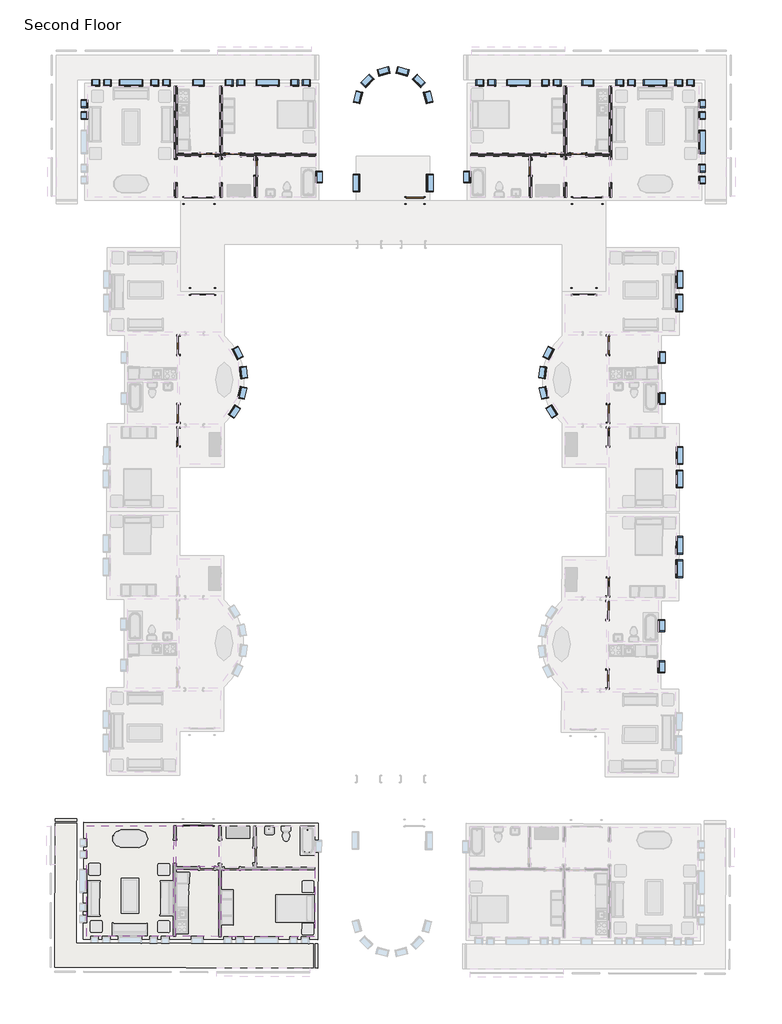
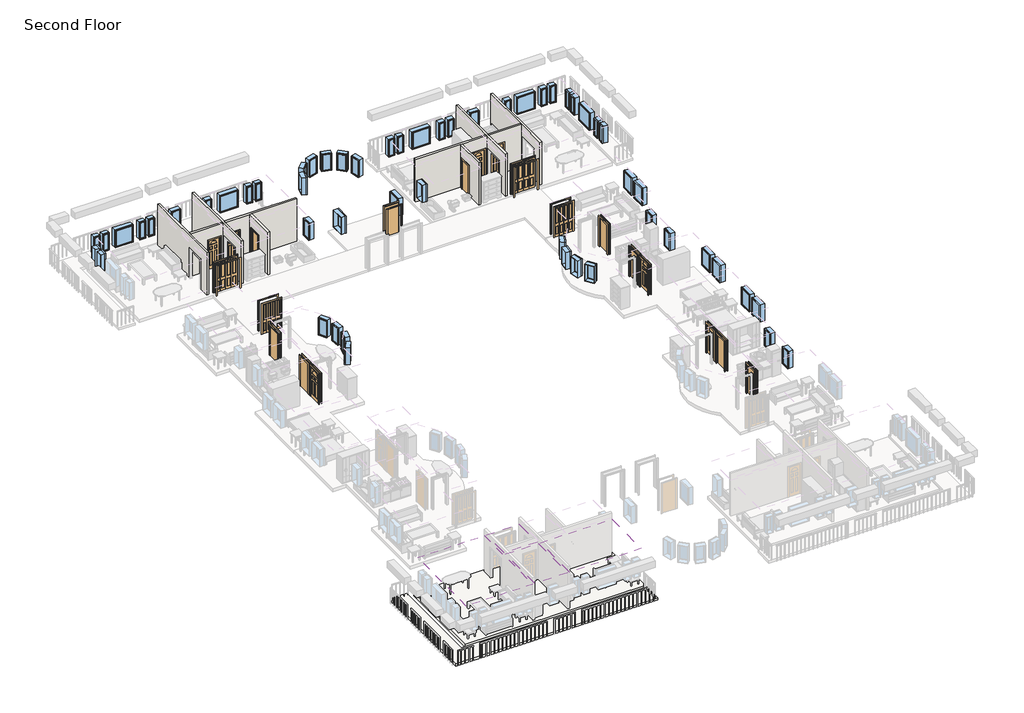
# One storey, part 2 of 8: 57 windows, 20 doors, 8 walls, 4 coverings, 2 slabs.
"""IFC4 building model written with IfcOpenShell, lengths in millimetres."""

from ifc_helpers import new_model, si_unit, frame, origin, place, context, project, spatial, polyline, outline, extrude, faceted_brep, transform, mapped, element, save
from components import m_bifold_4_panel_1220_x_2134mm_46e1cad3, m_bifold_4_panel_1220_x_2134mm_cde6dea2, m_bifold_4_panel_1525_x_2134mm_1ddae71f, m_bifold_4_panel_1525_x_2134mm_ac598c8b, m_single_decorative_2_0762_x_2134mm_0d0af7cb, m_single_decorative_2_0762_x_2134mm_2fe67c8e, m_single_decorative_2_0915_x_2134mm_cc9a65e4, m_single_decorative_2_0915_x_2134mm_0b11df3f, m_single_flush_0762_x_2134mm_0d89e411, m_single_flush_0762_x_2134mm_a28375c7, m_single_flush_0915_x_2134mm_1eac8bb1, m_single_flush_0915_x_2134mm_ab9b6334, m_single_flush_0915_x_2134mm_08e0827a, m_fixed_0406_x_1220mm_57fee329, m_fixed_0406_x_1220mm_85c28f40, m_fixed_0610_x_1220mm_2c28ef1d, m_fixed_0610_x_1220mm_1ea27827, m_fixed_0915_x_1220mm_bde29121, m_fixed_0915_x_1220mm_2a2509e7, m_fixed_1220_x_1220mm_e08ff7af, m_fixed_1220_x_1220mm_8f5f8ad3

model = new_model("IFC4")

# Units and contexts
model_context = context("Model", 3, world=origin())
ifc_project = project(units=[si_unit("LENGTHUNIT", "METRE", prefix="MILLI")], contexts=[model_context])

# Site, building, storey
site = spatial("IfcSite", under=ifc_project)
building = spatial("IfcBuilding", under=site)
storey = spatial("IfcBuildingStorey", under=building, Name="Second Floor", Elevation=3048.0)

# Coverings
placement = place(None, origin())
element("IfcCovering", 1, ObjectType="Plain", at=placement, inside=storey, context=model_context, shape_type="SweptSolid", body=[
    extrude(outline(polyline([(-23042.7754252, -41764.4492391), (-27891.2551095, -41750.4135399), (-27881.1911499, -38273.9281067), (-23032.7114656, -38287.9638059), (-23042.7754252, -41764.4492391)])), frame((0.0, 0.0, 5638.0), z_axis=(0.0, 0.0, 1.0), x_axis=(1.0, 0.0, 0.0)), (0.0, 0.0, 1.0), 57.0),
])
element("IfcCovering", 2, ObjectType="Plain", at=placement, inside=storey, context=model_context, shape_type="SweptSolid", body=[
    extrude(outline(polyline([(-28016.6905821, -38273.535854), (-28026.7545418, -41750.0212871), (-30244.9952471, -41743.5997775), (-30234.9312874, -38267.1143443), (-28016.6905821, -38273.535854)])), frame((0.0, 0.0, 5638.0), z_axis=(0.0, 0.0, 1.0), x_axis=(1.0, 0.0, 0.0)), (0.0, 0.0, 1.0), 57.0),
])
element("IfcCovering", 3, ObjectType="Plain", at=placement, inside=storey, context=model_context, shape_type="SweptSolid", body=[
    extrude(outline(polyline([(-30363.8608487, -35997.2316011), (-30380.4946793, -41743.2075247), (-34884.7258061, -41730.168379), (-34868.0919755, -35984.1924553), (-30363.8608487, -35997.2316011)])), frame((0.0, 0.0, 5638.0), z_axis=(0.0, 0.0, 1.0), x_axis=(1.0, 0.0, 0.0)), (0.0, 0.0, 1.0), 57.0),
])
element("IfcCovering", 4, ObjectType="Plain", at=placement, inside=storey, context=model_context, shape_type="SweptSolid", body=[
    extrude(outline(polyline([(-30228.3614165, -35997.6238538), (-28010.1207112, -36004.0453635), (-28016.2983294, -38138.0364218), (-30234.5390347, -38131.6149121), (-30228.3614165, -35997.6238538)])), frame((0.0, 0.0, 5638.0), z_axis=(0.0, 0.0, 1.0), x_axis=(1.0, 0.0, 0.0)), (0.0, 0.0, 1.0), 57.0),
])

# Doors
m_bifold_4_panel_1220_x_2134mm_shape = m_bifold_4_panel_1220_x_2134mm_46e1cad3(model_context)
element("IfcDoor", 5, ObjectType="M_Bifold-4 Panel : 1220 x 2134mm", at=placement, inside=storey, context=model_context, shape_type="MappedRepresentation", body=[
    mapped(m_bifold_4_panel_1220_x_2134mm_shape, transform((-28863.3459343, -8240.6820888, 3048.0), x_axis=(-0.9999989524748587, 0.0014474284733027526, 0.0), y_axis=(-0.0014474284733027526, -0.9999989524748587, 0.0), z_axis=(0.0, 0.0, 1.0))),
])
m_bifold_4_panel_1220_x_2134mm_2_shape = m_bifold_4_panel_1220_x_2134mm_cde6dea2(model_context)
element("IfcDoor", 6, ObjectType="M_Bifold-4 Panel : 1220 x 2134mm", at=placement, inside=storey, context=model_context, shape_type="MappedRepresentation", body=[
    mapped(m_bifold_4_panel_1220_x_2134mm_2_shape, transform((-9050.8373063, -8240.6820888, 3048.0), x_axis=(0.9999989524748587, 0.0014474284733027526, 0.0), y_axis=(-0.0014474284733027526, 0.9999989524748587, 0.0), z_axis=(0.0, 0.0, 1.0))),
])
m_bifold_4_panel_1525_x_2134mm_shape = m_bifold_4_panel_1525_x_2134mm_1ddae71f(model_context)
element("IfcDoor", 7, ObjectType="M_Bifold-4 Panel : 1525 x 2134mm", at=placement, inside=storey, context=model_context, shape_type="MappedRepresentation", body=[
    mapped(m_bifold_4_panel_1525_x_2134mm_shape, transform((-8876.0916203, -3514.8811614, 3048.0), x_axis=(1.0, 0.0, 0.0), y_axis=(0.0, 1.0, 0.0), z_axis=(0.0, 0.0, 1.0))),
])
m_bifold_4_panel_1525_x_2134mm_2_shape = m_bifold_4_panel_1525_x_2134mm_ac598c8b(model_context)
element("IfcDoor", 8, ObjectType="M_Bifold-4 Panel : 1525 x 2134mm", at=placement, inside=storey, context=model_context, shape_type="MappedRepresentation", body=[
    mapped(m_bifold_4_panel_1525_x_2134mm_2_shape, transform((-29038.0916203, -3514.8811614, 3048.0), x_axis=(-1.0, 0.0, 0.0), y_axis=(0.0, -1.0, 0.0), z_axis=(0.0, 0.0, 1.0))),
])
m_single_decorative_2_0762_x_2134mm_shape = m_single_decorative_2_0762_x_2134mm_0d0af7cb(model_context)
element("IfcDoor", 9, ObjectType="M_Single-Decorative 2 : 0762 x 2134mm", at=placement, inside=storey, context=model_context, shape_type="MappedRepresentation", body=[
    mapped(m_single_decorative_2_0762_x_2134mm_shape, transform((-9342.3416203, -1138.1311614, 3048.0), x_axis=(-1.0, 0.0, 0.0), y_axis=(0.0, -1.0, 0.0), z_axis=(0.0, 0.0, 1.0))),
])
element("IfcDoor", 10, ObjectType="M_Single-Decorative 2 : 0762 x 2134mm", at=placement, inside=storey, context=model_context, shape_type="MappedRepresentation", body=[
    mapped(m_single_decorative_2_0762_x_2134mm_shape, transform((-27285.0916203, -1138.1311614, 3048.0), x_axis=(-1.0, 0.0, 0.0), y_axis=(0.0, -1.0, 0.0), z_axis=(0.0, 0.0, 1.0))),
])
m_single_decorative_2_0762_x_2134mm_2_shape = m_single_decorative_2_0762_x_2134mm_2fe67c8e(model_context)
element("IfcDoor", 11, ObjectType="M_Single-Decorative 2 : 0762 x 2134mm", at=placement, inside=storey, context=model_context, shape_type="MappedRepresentation", body=[
    mapped(m_single_decorative_2_0762_x_2134mm_2_shape, transform((-10629.0916203, -1138.1311614, 3048.0), x_axis=(1.0, 0.0, 0.0), y_axis=(0.0, 1.0, 0.0), z_axis=(0.0, 0.0, 1.0))),
])
element("IfcDoor", 12, ObjectType="M_Single-Decorative 2 : 0762 x 2134mm", at=placement, inside=storey, context=model_context, shape_type="MappedRepresentation", body=[
    mapped(m_single_decorative_2_0762_x_2134mm_2_shape, transform((-28571.8416203, -1138.1311614, 3048.0), x_axis=(1.0, 0.0, 0.0), y_axis=(0.0, 1.0, 0.0), z_axis=(0.0, 0.0, 1.0))),
])
m_single_decorative_2_0915_x_2134mm_shape = m_single_decorative_2_0915_x_2134mm_cc9a65e4(model_context)
element("IfcDoor", 13, ObjectType="M_Single-Decorative 2 : 0915 x 2134mm", at=placement, inside=storey, context=model_context, shape_type="MappedRepresentation", body=[
    mapped(m_single_decorative_2_0915_x_2134mm_shape, transform((-30117.2933431, -15803.1250115, 3048.0), x_axis=(0.0014474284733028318, 0.9999989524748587, 0.0), y_axis=(-0.9999989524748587, 0.0014474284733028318, 0.0), z_axis=(0.0, 0.0, 1.0))),
])
element("IfcDoor", 14, ObjectType="M_Single-Decorative 2 : 0915 x 2134mm", at=placement, inside=storey, context=model_context, shape_type="MappedRepresentation", body=[
    mapped(m_single_decorative_2_0915_x_2134mm_shape, transform((-7808.1742155, -23599.2312198, 3048.0), x_axis=(-0.004342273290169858, -0.9999905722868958, 0.0), y_axis=(0.9999905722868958, -0.004342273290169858, 0.0), z_axis=(0.0, 0.0, 1.0))),
])
m_single_decorative_2_0915_x_2134mm_2_shape = m_single_decorative_2_0915_x_2134mm_0b11df3f(model_context)
element("IfcDoor", 15, ObjectType="M_Single-Decorative 2 : 0915 x 2134mm", at=placement, inside=storey, context=model_context, shape_type="MappedRepresentation", body=[
    mapped(m_single_decorative_2_0915_x_2134mm_2_shape, transform((-7796.8898976, -15803.1250115, 3048.0), x_axis=(-0.0014474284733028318, 0.9999989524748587, 0.0), y_axis=(-0.9999989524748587, -0.0014474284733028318, 0.0), z_axis=(0.0, 0.0, 1.0))),
])
m_single_flush_0762_x_2134mm_shape = m_single_flush_0762_x_2134mm_0d89e411(model_context)
element("IfcDoor", 16, ObjectType="M_Single-Flush : 0762 x 2134mm", at=placement, inside=storey, context=model_context, shape_type="MappedRepresentation", body=[
    mapped(m_single_flush_0762_x_2134mm_shape, transform((-11819.5916203, -1815.8811614, 3048.0), x_axis=(0.0, 1.0, 0.0), y_axis=(-1.0, 0.0, 0.0), z_axis=(0.0, 0.0, 1.0))),
])
m_single_flush_0762_x_2134mm_2_shape = m_single_flush_0762_x_2134mm_a28375c7(model_context)
element("IfcDoor", 17, ObjectType="M_Single-Flush : 0762 x 2134mm", at=placement, inside=storey, context=model_context, shape_type="MappedRepresentation", body=[
    mapped(m_single_flush_0762_x_2134mm_2_shape, transform((-26094.5916203, -1815.8811614, 3048.0), x_axis=(0.0, 1.0, 0.0), y_axis=(-1.0, 0.0, 0.0), z_axis=(0.0, 0.0, 1.0))),
])
m_single_flush_0915_x_2134mm_shape = m_single_flush_0915_x_2134mm_1eac8bb1(model_context)
element("IfcDoor", 18, ObjectType="M_Single-Flush : 0915 x 2134mm", at=placement, inside=storey, context=model_context, shape_type="MappedRepresentation", body=[
    mapped(m_single_flush_0915_x_2134mm_shape, transform((-17814.0916203, -3514.8811614, 3048.0), x_axis=(1.0, 0.0, 0.0), y_axis=(0.0, 1.0, 0.0), z_axis=(0.0, 0.0, 1.0))),
])
m_single_flush_0915_x_2134mm_2_shape = m_single_flush_0915_x_2134mm_ab9b6334(model_context)
element("IfcDoor", 19, ObjectType="M_Single-Flush : 0915 x 2134mm", at=placement, inside=storey, context=model_context, shape_type="MappedRepresentation", body=[
    mapped(m_single_flush_0915_x_2134mm_2_shape, transform((-7803.7915984, -11034.8800064, 3048.0), x_axis=(-0.0014474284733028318, 0.9999989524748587, 0.0), y_axis=(-0.9999989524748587, -0.0014474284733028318, 0.0), z_axis=(0.0, 0.0, 1.0))),
])
element("IfcDoor", 20, ObjectType="M_Single-Flush : 0915 x 2134mm", at=placement, inside=storey, context=model_context, shape_type="MappedRepresentation", body=[
    mapped(m_single_flush_0915_x_2134mm_2_shape, transform((-30115.5274803, -14583.1262895, 3048.0), x_axis=(-0.0014474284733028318, -0.9999989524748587, 0.0), y_axis=(0.9999989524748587, -0.0014474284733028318, 0.0), z_axis=(0.0, 0.0, 1.0))),
])
element("IfcDoor", 21, ObjectType="M_Single-Flush : 0915 x 2134mm", at=placement, inside=storey, context=model_context, shape_type="MappedRepresentation", body=[
    mapped(m_single_flush_0915_x_2134mm_2_shape, transform((-7813.4717889, -24819.219718, 3048.0), x_axis=(0.004342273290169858, 0.9999905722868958, 0.0), y_axis=(-0.9999905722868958, 0.004342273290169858, 0.0), z_axis=(0.0, 0.0, 1.0))),
])
m_single_flush_0915_x_2134mm_3_shape = m_single_flush_0915_x_2134mm_08e0827a(model_context)
element("IfcDoor", 22, ObjectType="M_Single-Flush : 0915 x 2134mm", at=placement, inside=storey, context=model_context, shape_type="MappedRepresentation", body=[
    mapped(m_single_flush_0915_x_2134mm_3_shape, transform((-7798.6557603, -14583.1262895, 3048.0), x_axis=(0.0014474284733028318, -0.9999989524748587, 0.0), y_axis=(0.9999989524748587, 0.0014474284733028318, 0.0), z_axis=(0.0, 0.0, 1.0))),
])
element("IfcDoor", 23, ObjectType="M_Single-Flush : 0915 x 2134mm", at=placement, inside=storey, context=model_context, shape_type="MappedRepresentation", body=[
    mapped(m_single_flush_0915_x_2134mm_3_shape, transform((-30110.3916422, -11034.8800064, 3048.0), x_axis=(0.0014474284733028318, 0.9999989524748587, 0.0), y_axis=(-0.9999989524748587, 0.0014474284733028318, 0.0), z_axis=(0.0, 0.0, 1.0))),
])
element("IfcDoor", 24, ObjectType="M_Single-Flush : 0915 x 2134mm", at=placement, inside=storey, context=model_context, shape_type="MappedRepresentation", body=[
    mapped(m_single_flush_0915_x_2134mm_3_shape, transform((-7828.8792601, -28367.4362661, 3048.0), x_axis=(-0.004342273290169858, -0.9999905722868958, 0.0), y_axis=(0.9999905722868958, -0.004342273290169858, 0.0), z_axis=(0.0, 0.0, 1.0))),
])

# Slabs
element("IfcSlab", 25, ObjectType="160mm Concrete With 50mm Metal Deck", at=placement, inside=storey, context=model_context, shape_type="SweptSolid", body=[
    extrude(outline(polyline([(-35050.2027656, -41894.6900367), (-35032.6136332, -35818.7154958), (-22860.6646351, -35853.9516576), (-22878.2537675, -41929.9261986), (-35050.2027656, -41894.6900367)])), frame((0.0, 0.0, 2838.0), z_axis=(0.0, 0.0, 1.0), x_axis=(1.0, 0.0, 0.0)), (0.0, 0.0, 1.0), 210.0),
])
element("IfcSlab", 26, ObjectType="Generic 150mm", at=placement, inside=storey, context=model_context, shape_type="SweptSolid", body=[
    extrude(outline(polyline([(-22885.4802416, -43389.9113965), (-36527.4230803, -43350.4197994), (-36505.0719132, -35629.4521511), (-35405.0765223, -35632.6364904), (-35423.7367507, -42078.6094811), (-22881.7893029, -42114.9167389), (-22885.4802416, -43389.9113965)])), frame((0.0, 0.0, 2898.0), z_axis=(0.0, 0.0, 1.0), x_axis=(1.0, 0.0, 0.0)), (0.0, 0.0, 1.0), 150.0),
])

# Walls
element("IfcWall", 27, ObjectType="Interior - 135mm Partition (2-hr)", at=placement, inside=storey, context=model_context, shape_type="Brep", body=[
    faceted_brep([(-7733.0916203, 2406.1188386, 3048.0), (-7733.0916203, -1070.3811614, 3048.0), (-7733.0916203, -1205.8811614, 3048.0), (-7733.0916203, -1380.8811614, 3048.0), (-7733.0916203, -1380.8811614, 5182.0), (-7733.0916203, -2600.8811614, 5182.0), (-7733.0916203, -2600.8811614, 3048.0), (-7733.0916203, -3339.8811614, 3048.0), (-7733.0916203, -3339.8811614, 6096.0), (-7733.0916203, -1205.8811614, 6096.0), (-7733.0916203, -1070.3811614, 6096.0), (-7733.0916203, 2406.1188386, 6096.0), (-7597.5916203, -1380.8811614, 5182.0), (-7597.5916203, -1380.8811614, 3048.0), (-7597.5916203, 2406.1188386, 3048.0), (-7597.5916203, 2406.1188386, 6096.0), (-7597.5916203, -3339.8811614, 6096.0), (-7597.5916203, -3339.8811614, 3048.0), (-7597.5916203, -2600.8811614, 3048.0), (-7597.5916203, -2600.8811614, 5182.0)], [[[0, 1, 2, 3, 4, 5, 6, 7, 8, 9, 10, 11]], [[12, 13, 14, 15, 16, 17, 18, 19]], [[18, 17, 7, 6]], [[14, 13, 3, 2, 1, 0]], [[11, 10, 9, 8, 16, 15]], [[6, 5, 19, 18]], [[4, 3, 13, 12]], [[5, 4, 12, 19]], [[8, 7, 17, 16]], [[0, 11, 15, 14]]]),
])
element("IfcWall", 28, ObjectType="Interior - 135mm Partition (2-hr)", at=placement, inside=storey, context=model_context, shape_type="Brep", body=[
    faceted_brep([(-10086.8416203, -2600.8811614, 5182.0), (-10086.8416203, -2600.8811614, 3048.0), (-10086.8416203, -3339.8811614, 3048.0), (-10086.8416203, -3339.8811614, 6096.0), (-10086.8416203, -1205.8811614, 6096.0), (-10086.8416203, -1070.3811614, 6096.0), (-10086.8416203, 2406.1188386, 6096.0), (-10086.8416203, 2406.1188386, 3048.0), (-10086.8416203, -1070.3811614, 3048.0), (-10086.8416203, -1205.8811614, 3048.0), (-10086.8416203, -1380.8811614, 3048.0), (-10086.8416203, -1380.8811614, 5182.0), (-9951.3416203, -3339.8811614, 3048.0), (-9951.3416203, -2600.8811614, 3048.0), (-9951.3416203, -2600.8811614, 5182.0), (-9951.3416203, -1380.8811614, 5182.0), (-9951.3416203, -1380.8811614, 3048.0), (-9951.3416203, -1205.8811614, 3048.0), (-9951.3416203, -1070.3811614, 3048.0), (-9951.3416203, 2406.1188386, 3048.0), (-9951.3416203, 2406.1188386, 6096.0), (-9951.3416203, -1070.3811614, 6096.0), (-9951.3416203, -1205.8811614, 6096.0), (-9951.3416203, -3339.8811614, 6096.0)], [[[0, 1, 2, 3, 4, 5, 6, 7, 8, 9, 10, 11]], [[12, 13, 14, 15, 16, 17, 18, 19, 20, 21, 22, 23]], [[2, 1, 13, 12]], [[10, 9, 8, 7, 19, 18, 17, 16]], [[6, 5, 4, 3, 23, 22, 21, 20]], [[16, 15, 11, 10]], [[14, 13, 1, 0]], [[15, 14, 0, 11]], [[3, 2, 12, 23]], [[7, 6, 20, 19]]]),
])
element("IfcWall", 29, ObjectType="Interior - 135mm Partition (2-hr)", at=placement, inside=storey, context=model_context, shape_type="Brep", body=[
    faceted_brep([(-9723.3416203, -1205.8811614, 3048.0), (-9723.3416203, -1205.8811614, 5182.0), (-8961.3416203, -1205.8811614, 5182.0), (-8961.3416203, -1205.8811614, 3048.0), (-7733.0916203, -1205.8811614, 3048.0), (-7733.0916203, -1205.8811614, 6096.0), (-9951.3416203, -1205.8811614, 6096.0), (-9951.3416203, -1205.8811614, 3048.0), (-9723.3416203, -1070.3811614, 5182.0), (-9723.3416203, -1070.3811614, 3048.0), (-9951.3416203, -1070.3811614, 3048.0), (-9951.3416203, -1070.3811614, 6096.0), (-7733.0916203, -1070.3811614, 6096.0), (-7733.0916203, -1070.3811614, 3048.0), (-8961.3416203, -1070.3811614, 3048.0), (-8961.3416203, -1070.3811614, 5182.0)], [[[0, 1, 2, 3, 4, 5, 6, 7]], [[8, 9, 10, 11, 12, 13, 14, 15]], [[9, 0, 7, 10]], [[3, 14, 13, 4]], [[5, 12, 11, 6]], [[1, 0, 9, 8]], [[2, 1, 8, 15]], [[3, 2, 15, 14]], [[5, 4, 13, 12]], [[7, 6, 11, 10]]]),
    faceted_brep([(-10248.0916203, -1205.8811614, 5182.0), (-10248.0916203, -1205.8811614, 3048.0), (-10086.8416203, -1205.8811614, 3048.0), (-10086.8416203, -1205.8811614, 6096.0), (-11751.8416203, -1205.8811614, 6096.0), (-11887.3416203, -1205.8811614, 6096.0), (-14935.3416203, -1205.8811614, 6096.0), (-14935.3416203, -1205.8811614, 3048.0), (-11887.3416203, -1205.8811614, 3048.0), (-11751.8416203, -1205.8811614, 3048.0), (-11010.0916203, -1205.8811614, 3048.0), (-11010.0916203, -1205.8811614, 5182.0), (-10248.0916203, -1070.3811614, 3048.0), (-10248.0916203, -1070.3811614, 5182.0), (-11010.0916203, -1070.3811614, 5182.0), (-11010.0916203, -1070.3811614, 3048.0), (-14935.3416203, -1070.3811614, 3048.0), (-14935.3416203, -1070.3811614, 6096.0), (-10086.8416203, -1070.3811614, 6096.0), (-10086.8416203, -1070.3811614, 3048.0)], [[[0, 1, 2, 3, 4, 5, 6, 7, 8, 9, 10, 11]], [[12, 13, 14, 15, 16, 17, 18, 19]], [[1, 12, 19, 2]], [[15, 10, 9, 8, 7, 16]], [[17, 6, 5, 4, 3, 18]], [[13, 12, 1, 0]], [[14, 13, 0, 11]], [[15, 14, 11, 10]], [[7, 6, 17, 16]], [[3, 2, 19, 18]]]),
])
element("IfcWall", 30, ObjectType="Interior - 135mm Partition (2-hr)", at=placement, inside=storey, context=model_context, shape_type="SweptSolid", body=[
    extrude(outline(polyline([(-1205.8811614, 3048.0), (-1434.8811614, 3048.0), (-1434.8811614, 5182.0), (-2196.8811614, 5182.0), (-2196.8811614, 3048.0), (-3339.8811614, 3048.0), (-3339.8811614, 6096.0), (-1205.8811614, 6096.0), (-1205.8811614, 3048.0)])), frame((-11887.3416203, 0.0, 0.0), z_axis=(1.0, 0.0, 0.0), x_axis=(0.0, 1.0, 0.0)), (0.0, 0.0, 1.0), 135.5),
])
element("IfcWall", 31, ObjectType="Interior - 135mm Partition (2-hr)", at=placement, inside=storey, context=model_context, shape_type="Brep", body=[
    faceted_brep([(-30316.5916203, 2406.1188386, 3048.0), (-30316.5916203, -1380.8811614, 3048.0), (-30316.5916203, -1380.8811614, 5182.0), (-30316.5916203, -2600.8811614, 5182.0), (-30316.5916203, -2600.8811614, 3048.0), (-30316.5916203, -3339.8811614, 3048.0), (-30316.5916203, -3339.8811614, 6096.0), (-30316.5916203, 2406.1188386, 6096.0), (-30181.0916203, -1380.8811614, 5182.0), (-30181.0916203, -1380.8811614, 3048.0), (-30181.0916203, -1205.8811614, 3048.0), (-30181.0916203, -1070.3811614, 3048.0), (-30181.0916203, 2406.1188386, 3048.0), (-30181.0916203, 2406.1188386, 6096.0), (-30181.0916203, -1070.3811614, 6096.0), (-30181.0916203, -1205.8811614, 6096.0), (-30181.0916203, -3339.8811614, 6096.0), (-30181.0916203, -3339.8811614, 3048.0), (-30181.0916203, -2600.8811614, 3048.0), (-30181.0916203, -2600.8811614, 5182.0)], [[[0, 1, 2, 3, 4, 5, 6, 7]], [[8, 9, 10, 11, 12, 13, 14, 15, 16, 17, 18, 19]], [[18, 17, 5, 4]], [[12, 11, 10, 9, 1, 0]], [[7, 6, 16, 15, 14, 13]], [[4, 3, 19, 18]], [[2, 1, 9, 8]], [[3, 2, 8, 19]], [[0, 7, 13, 12]], [[6, 5, 17, 16]]]),
])
element("IfcWall", 32, ObjectType="Interior - 135mm Partition (2-hr)", at=placement, inside=storey, context=model_context, shape_type="Brep", body=[
    faceted_brep([(-27962.8416203, -2600.8811614, 5182.0), (-27962.8416203, -2600.8811614, 3048.0), (-27962.8416203, -3339.8811614, 3048.0), (-27962.8416203, -3339.8811614, 6096.0), (-27962.8416203, -1205.8811614, 6096.0), (-27962.8416203, -1070.3811614, 6096.0), (-27962.8416203, 2406.1188386, 6096.0), (-27962.8416203, 2406.1188386, 3048.0), (-27962.8416203, -1070.3811614, 3048.0), (-27962.8416203, -1205.8811614, 3048.0), (-27962.8416203, -1380.8811614, 3048.0), (-27962.8416203, -1380.8811614, 5182.0), (-27827.3416203, -3339.8811614, 3048.0), (-27827.3416203, -2600.8811614, 3048.0), (-27827.3416203, -2600.8811614, 5182.0), (-27827.3416203, -1380.8811614, 5182.0), (-27827.3416203, -1380.8811614, 3048.0), (-27827.3416203, -1205.8811614, 3048.0), (-27827.3416203, -1070.3811614, 3048.0), (-27827.3416203, 2406.1188386, 3048.0), (-27827.3416203, 2406.1188386, 6096.0), (-27827.3416203, -1070.3811614, 6096.0), (-27827.3416203, -1205.8811614, 6096.0), (-27827.3416203, -3339.8811614, 6096.0)], [[[0, 1, 2, 3, 4, 5, 6, 7, 8, 9, 10, 11]], [[12, 13, 14, 15, 16, 17, 18, 19, 20, 21, 22, 23]], [[2, 1, 13, 12]], [[10, 9, 8, 7, 19, 18, 17, 16]], [[6, 5, 4, 3, 23, 22, 21, 20]], [[16, 15, 11, 10]], [[14, 13, 1, 0]], [[15, 14, 0, 11]], [[7, 6, 20, 19]], [[3, 2, 12, 23]]]),
])
element("IfcWall", 33, ObjectType="Interior - 135mm Partition (2-hr)", at=placement, inside=storey, context=model_context, shape_type="Brep", body=[
    faceted_brep([(-30181.0916203, -1070.3811614, 3048.0), (-30181.0916203, -1070.3811614, 6096.0), (-27962.8416203, -1070.3811614, 6096.0), (-27962.8416203, -1070.3811614, 3048.0), (-28190.8416203, -1070.3811614, 3048.0), (-28190.8416203, -1070.3811614, 5182.0), (-28952.8416203, -1070.3811614, 5182.0), (-28952.8416203, -1070.3811614, 3048.0), (-30181.0916203, -1205.8811614, 6096.0), (-30181.0916203, -1205.8811614, 3048.0), (-28952.8416203, -1205.8811614, 3048.0), (-28952.8416203, -1205.8811614, 5182.0), (-28190.8416203, -1205.8811614, 5182.0), (-28190.8416203, -1205.8811614, 3048.0), (-27962.8416203, -1205.8811614, 3048.0), (-27962.8416203, -1205.8811614, 6096.0)], [[[0, 1, 2, 3, 4, 5, 6, 7]], [[8, 9, 10, 11, 12, 13, 14, 15]], [[9, 0, 7, 10]], [[13, 4, 3, 14]], [[1, 8, 15, 2]], [[1, 0, 9, 8]], [[3, 2, 15, 14]], [[5, 4, 13, 12]], [[6, 5, 12, 11]], [[7, 6, 11, 10]]]),
    faceted_brep([(-27666.0916203, -1070.3811614, 5182.0), (-27666.0916203, -1070.3811614, 3048.0), (-27827.3416203, -1070.3811614, 3048.0), (-27827.3416203, -1070.3811614, 6096.0), (-22978.8416203, -1070.3811614, 6096.0), (-22978.8416203, -1070.3811614, 3048.0), (-26904.0916203, -1070.3811614, 3048.0), (-26904.0916203, -1070.3811614, 5182.0), (-27666.0916203, -1205.8811614, 3048.0), (-27666.0916203, -1205.8811614, 5182.0), (-26904.0916203, -1205.8811614, 5182.0), (-26904.0916203, -1205.8811614, 3048.0), (-26162.3416203, -1205.8811614, 3048.0), (-26026.8416203, -1205.8811614, 3048.0), (-22978.8416203, -1205.8811614, 3048.0), (-22978.8416203, -1205.8811614, 6096.0), (-26026.8416203, -1205.8811614, 6096.0), (-26162.3416203, -1205.8811614, 6096.0), (-27827.3416203, -1205.8811614, 6096.0), (-27827.3416203, -1205.8811614, 3048.0)], [[[0, 1, 2, 3, 4, 5, 6, 7]], [[8, 9, 10, 11, 12, 13, 14, 15, 16, 17, 18, 19]], [[1, 8, 19, 2]], [[11, 6, 5, 14, 13, 12]], [[15, 4, 3, 18, 17, 16]], [[3, 2, 19, 18]], [[9, 8, 1, 0]], [[10, 9, 0, 7]], [[11, 10, 7, 6]], [[5, 4, 15, 14]]]),
])
element("IfcWall", 34, ObjectType="Interior - 135mm Partition (2-hr)", at=placement, inside=storey, context=model_context, shape_type="SweptSolid", body=[
    extrude(outline(polyline([(-1205.8811614, 3048.0), (-1434.8811614, 3048.0), (-1434.8811614, 5182.0), (-2196.8811614, 5182.0), (-2196.8811614, 3048.0), (-3339.8811614, 3048.0), (-3339.8811614, 6096.0), (-1205.8811614, 6096.0), (-1205.8811614, 3048.0)])), frame((-26162.3416203, 0.0, 0.0), z_axis=(1.0, 0.0, 0.0), x_axis=(0.0, 1.0, 0.0)), (0.0, 0.0, 1.0), 135.5),
])

# Windows
m_fixed_0406_x_1220mm_shape = m_fixed_0406_x_1220mm_57fee329(model_context)
element("IfcWindow", 35, ObjectType="M_Fixed : 0406 x 1220mm", at=placement, inside=storey, context=model_context, shape_type="MappedRepresentation", body=[
    mapped(m_fixed_0406_x_1220mm_shape, transform((-14450.3416203, 2594.1188386, 3048.0), x_axis=(-1.0, 0.0, 0.0), y_axis=(0.0, -1.0, 0.0), z_axis=(0.0, 0.0, 1.0))),
])
element("IfcWindow", 36, ObjectType="M_Fixed : 0406 x 1220mm", at=placement, inside=storey, context=model_context, shape_type="MappedRepresentation", body=[
    mapped(m_fixed_0406_x_1220mm_shape, transform((-13840.3416203, 2594.1188386, 3048.0), x_axis=(-1.0, 0.0, 0.0), y_axis=(0.0, -1.0, 0.0), z_axis=(0.0, 0.0, 1.0))),
])
element("IfcWindow", 37, ObjectType="M_Fixed : 0406 x 1220mm", at=placement, inside=storey, context=model_context, shape_type="MappedRepresentation", body=[
    mapped(m_fixed_0406_x_1220mm_shape, transform((-7183.3416203, 2594.1188386, 3048.0), x_axis=(-1.0, 0.0, 0.0), y_axis=(0.0, -1.0, 0.0), z_axis=(0.0, 0.0, 1.0))),
])
element("IfcWindow", 38, ObjectType="M_Fixed : 0406 x 1220mm", at=placement, inside=storey, context=model_context, shape_type="MappedRepresentation", body=[
    mapped(m_fixed_0406_x_1220mm_shape, transform((-6573.3416203, 2594.1188386, 3048.0), x_axis=(-1.0, 0.0, 0.0), y_axis=(0.0, -1.0, 0.0), z_axis=(0.0, 0.0, 1.0))),
])
element("IfcWindow", 39, ObjectType="M_Fixed : 0406 x 1220mm", at=placement, inside=storey, context=model_context, shape_type="MappedRepresentation", body=[
    mapped(m_fixed_0406_x_1220mm_shape, transform((-2905.3416203, 1514.1188386, 3048.0), x_axis=(0.0, 1.0, 0.0), y_axis=(-1.0, 0.0, 0.0), z_axis=(0.0, 0.0, 1.0))),
])
element("IfcWindow", 40, ObjectType="M_Fixed : 0406 x 1220mm", at=placement, inside=storey, context=model_context, shape_type="MappedRepresentation", body=[
    mapped(m_fixed_0406_x_1220mm_shape, transform((-2905.3416203, 904.1188386, 3048.0), x_axis=(0.0, 1.0, 0.0), y_axis=(-1.0, 0.0, 0.0), z_axis=(0.0, 0.0, 1.0))),
])
element("IfcWindow", 41, ObjectType="M_Fixed : 0406 x 1220mm", at=placement, inside=storey, context=model_context, shape_type="MappedRepresentation", body=[
    mapped(m_fixed_0406_x_1220mm_shape, transform((-27477.8416203, 2594.1188386, 3048.0), x_axis=(-1.0, 0.0, 0.0), y_axis=(0.0, -1.0, 0.0), z_axis=(0.0, 0.0, 1.0))),
])
element("IfcWindow", 42, ObjectType="M_Fixed : 0406 x 1220mm", at=placement, inside=storey, context=model_context, shape_type="MappedRepresentation", body=[
    mapped(m_fixed_0406_x_1220mm_shape, transform((-26867.8416203, 2594.1188386, 3048.0), x_axis=(-1.0, 0.0, 0.0), y_axis=(0.0, -1.0, 0.0), z_axis=(0.0, 0.0, 1.0))),
])
element("IfcWindow", 43, ObjectType="M_Fixed : 0406 x 1220mm", at=placement, inside=storey, context=model_context, shape_type="MappedRepresentation", body=[
    mapped(m_fixed_0406_x_1220mm_shape, transform((-34406.5916203, 2594.1188386, 3048.0), x_axis=(-1.0, 0.0, 0.0), y_axis=(0.0, -1.0, 0.0), z_axis=(0.0, 0.0, 1.0))),
])
element("IfcWindow", 44, ObjectType="M_Fixed : 0406 x 1220mm", at=placement, inside=storey, context=model_context, shape_type="MappedRepresentation", body=[
    mapped(m_fixed_0406_x_1220mm_shape, transform((-33796.5916203, 2594.1188386, 3048.0), x_axis=(-1.0, 0.0, 0.0), y_axis=(0.0, -1.0, 0.0), z_axis=(0.0, 0.0, 1.0))),
])
m_fixed_0406_x_1220mm_2_shape = m_fixed_0406_x_1220mm_85c28f40(model_context)
element("IfcWindow", 45, ObjectType="M_Fixed : 0406 x 1220mm", at=placement, inside=storey, context=model_context, shape_type="MappedRepresentation", body=[
    mapped(m_fixed_0406_x_1220mm_2_shape, transform((-10436.3416203, 2594.1188386, 3048.0), x_axis=(1.0, 0.0, 0.0), y_axis=(0.0, 1.0, 0.0), z_axis=(0.0, 0.0, 1.0))),
])
element("IfcWindow", 46, ObjectType="M_Fixed : 0406 x 1220mm", at=placement, inside=storey, context=model_context, shape_type="MappedRepresentation", body=[
    mapped(m_fixed_0406_x_1220mm_2_shape, transform((-11046.3416203, 2594.1188386, 3048.0), x_axis=(1.0, 0.0, 0.0), y_axis=(0.0, 1.0, 0.0), z_axis=(0.0, 0.0, 1.0))),
])
element("IfcWindow", 47, ObjectType="M_Fixed : 0406 x 1220mm", at=placement, inside=storey, context=model_context, shape_type="MappedRepresentation", body=[
    mapped(m_fixed_0406_x_1220mm_2_shape, transform((-3507.5916203, 2594.1188386, 3048.0), x_axis=(1.0, 0.0, 0.0), y_axis=(0.0, 1.0, 0.0), z_axis=(0.0, 0.0, 1.0))),
])
element("IfcWindow", 48, ObjectType="M_Fixed : 0406 x 1220mm", at=placement, inside=storey, context=model_context, shape_type="MappedRepresentation", body=[
    mapped(m_fixed_0406_x_1220mm_2_shape, transform((-4117.5916203, 2594.1188386, 3048.0), x_axis=(1.0, 0.0, 0.0), y_axis=(0.0, 1.0, 0.0), z_axis=(0.0, 0.0, 1.0))),
])
element("IfcWindow", 49, ObjectType="M_Fixed : 0406 x 1220mm", at=placement, inside=storey, context=model_context, shape_type="MappedRepresentation", body=[
    mapped(m_fixed_0406_x_1220mm_2_shape, transform((-2905.3416203, -2447.8811614, 3048.0), x_axis=(0.0, -1.0, 0.0), y_axis=(1.0, 0.0, 0.0), z_axis=(0.0, 0.0, 1.0))),
])
element("IfcWindow", 50, ObjectType="M_Fixed : 0406 x 1220mm", at=placement, inside=storey, context=model_context, shape_type="MappedRepresentation", body=[
    mapped(m_fixed_0406_x_1220mm_2_shape, transform((-2905.3416203, -1837.8811614, 3048.0), x_axis=(0.0, -1.0, 0.0), y_axis=(1.0, 0.0, 0.0), z_axis=(0.0, 0.0, 1.0))),
])
element("IfcWindow", 51, ObjectType="M_Fixed : 0406 x 1220mm", at=placement, inside=storey, context=model_context, shape_type="MappedRepresentation", body=[
    mapped(m_fixed_0406_x_1220mm_2_shape, transform((-23463.8416203, 2594.1188386, 3048.0), x_axis=(1.0, 0.0, 0.0), y_axis=(0.0, 1.0, 0.0), z_axis=(0.0, 0.0, 1.0))),
])
element("IfcWindow", 52, ObjectType="M_Fixed : 0406 x 1220mm", at=placement, inside=storey, context=model_context, shape_type="MappedRepresentation", body=[
    mapped(m_fixed_0406_x_1220mm_2_shape, transform((-24073.8416203, 2594.1188386, 3048.0), x_axis=(1.0, 0.0, 0.0), y_axis=(0.0, 1.0, 0.0), z_axis=(0.0, 0.0, 1.0))),
])
element("IfcWindow", 53, ObjectType="M_Fixed : 0406 x 1220mm", at=placement, inside=storey, context=model_context, shape_type="MappedRepresentation", body=[
    mapped(m_fixed_0406_x_1220mm_2_shape, transform((-30730.8416203, 2594.1188386, 3048.0), x_axis=(1.0, 0.0, 0.0), y_axis=(0.0, 1.0, 0.0), z_axis=(0.0, 0.0, 1.0))),
])
element("IfcWindow", 54, ObjectType="M_Fixed : 0406 x 1220mm", at=placement, inside=storey, context=model_context, shape_type="MappedRepresentation", body=[
    mapped(m_fixed_0406_x_1220mm_2_shape, transform((-31340.8416203, 2594.1188386, 3048.0), x_axis=(1.0, 0.0, 0.0), y_axis=(0.0, 1.0, 0.0), z_axis=(0.0, 0.0, 1.0))),
])
element("IfcWindow", 55, ObjectType="M_Fixed : 0406 x 1220mm", at=placement, inside=storey, context=model_context, shape_type="MappedRepresentation", body=[
    mapped(m_fixed_0406_x_1220mm_2_shape, transform((-35008.8416203, 1514.1188386, 3048.0), x_axis=(0.0, 1.0, 0.0), y_axis=(-1.0, 0.0, 0.0), z_axis=(0.0, 0.0, 1.0))),
])
element("IfcWindow", 56, ObjectType="M_Fixed : 0406 x 1220mm", at=placement, inside=storey, context=model_context, shape_type="MappedRepresentation", body=[
    mapped(m_fixed_0406_x_1220mm_2_shape, transform((-35008.8416203, 904.1188386, 3048.0), x_axis=(0.0, 1.0, 0.0), y_axis=(-1.0, 0.0, 0.0), z_axis=(0.0, 0.0, 1.0))),
])
m_fixed_0610_x_1220mm_shape = m_fixed_0610_x_1220mm_2c28ef1d(model_context)
element("IfcWindow", 57, ObjectType="M_Fixed : 0610 x 1220mm", at=placement, inside=storey, context=model_context, shape_type="MappedRepresentation", body=[
    mapped(m_fixed_0610_x_1220mm_shape, transform((-8842.1916203, 2594.1188386, 3048.0), x_axis=(-1.0, 0.0, 0.0), y_axis=(0.0, -1.0, 0.0), z_axis=(0.0, 0.0, 1.0))),
])
element("IfcWindow", 58, ObjectType="M_Fixed : 0610 x 1220mm", at=placement, inside=storey, context=model_context, shape_type="MappedRepresentation", body=[
    mapped(m_fixed_0610_x_1220mm_shape, transform((-15123.3416203, -2294.8811614, 3048.0), x_axis=(0.0, -1.0, 0.0), y_axis=(1.0, 0.0, 0.0), z_axis=(0.0, 0.0, 1.0))),
])
element("IfcWindow", 59, ObjectType="M_Fixed : 0610 x 1220mm", at=placement, inside=storey, context=model_context, shape_type="MappedRepresentation", body=[
    mapped(m_fixed_0610_x_1220mm_shape, transform((-20788.0201619, 1852.7146627, 3048.0), x_axis=(-0.2588190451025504, -0.9659258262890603, 0.0), y_axis=(0.9659258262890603, -0.2588190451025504, 0.0), z_axis=(0.0, 0.0, 1.0))),
])
element("IfcWindow", 60, ObjectType="M_Fixed : 0610 x 1220mm", at=placement, inside=storey, context=model_context, shape_type="MappedRepresentation", body=[
    mapped(m_fixed_0610_x_1220mm_shape, transform((-19447.6874444, 3193.0473802, 3048.0), x_axis=(-0.9659258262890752, -0.2588190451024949, 0.0), y_axis=(0.2588190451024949, -0.9659258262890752, 0.0), z_axis=(0.0, 0.0, 1.0))),
])
element("IfcWindow", 61, ObjectType="M_Fixed : 0610 x 1220mm", at=placement, inside=storey, context=model_context, shape_type="MappedRepresentation", body=[
    mapped(m_fixed_0610_x_1220mm_shape, transform((-20297.4243378, 2702.4515561, 3048.0), x_axis=(-0.707106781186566, -0.7071067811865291, 0.0), y_axis=(0.7071067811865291, -0.707106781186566, 0.0), z_axis=(0.0, 0.0, 1.0))),
])
element("IfcWindow", 62, ObjectType="M_Fixed : 0610 x 1220mm", at=placement, inside=storey, context=model_context, shape_type="MappedRepresentation", body=[
    mapped(m_fixed_0610_x_1220mm_shape, transform((-10890.7718819, -11438.4303335, 3048.0), x_axis=(-0.4506702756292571, -0.8926904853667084, 0.0), y_axis=(0.8926904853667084, -0.4506702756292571, 0.0), z_axis=(0.0, 0.0, 1.0))),
])
element("IfcWindow", 63, ObjectType="M_Fixed : 0610 x 1220mm", at=placement, inside=storey, context=model_context, shape_type="MappedRepresentation", body=[
    mapped(m_fixed_0610_x_1220mm_shape, transform((-11196.3470359, -12451.3940589, 3048.0), x_axis=(-0.11817340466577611, -0.9929929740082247, 0.0), y_axis=(0.9929929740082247, -0.11817340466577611, 0.0), z_axis=(0.0, 0.0, 1.0))),
])
element("IfcWindow", 64, ObjectType="M_Fixed : 0610 x 1220mm", at=placement, inside=storey, context=model_context, shape_type="MappedRepresentation", body=[
    mapped(m_fixed_0610_x_1220mm_shape, transform((-27195.6619811, -14479.206252, 3048.0), x_axis=(0.5477575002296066, 0.8366371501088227, 0.0), y_axis=(-0.8366371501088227, 0.5477575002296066, 0.0), z_axis=(0.0, 0.0, 1.0))),
])
element("IfcWindow", 65, ObjectType="M_Fixed : 0610 x 1220mm", at=placement, inside=storey, context=model_context, shape_type="MappedRepresentation", body=[
    mapped(m_fixed_0610_x_1220mm_shape, transform((-26778.8680979, -13507.3765282, 3048.0), x_axis=(0.22857692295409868, 0.9735258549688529, 0.0), y_axis=(-0.9735258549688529, 0.22857692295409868, 0.0), z_axis=(0.0, 0.0, 1.0))),
])
element("IfcWindow", 66, ObjectType="M_Fixed : 0610 x 1220mm", at=placement, inside=storey, context=model_context, shape_type="MappedRepresentation", body=[
    mapped(m_fixed_0610_x_1220mm_shape, transform((-5008.2557133, -25604.6081373, 3048.0), x_axis=(0.004342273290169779, 0.9999905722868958, 0.0), y_axis=(-0.9999905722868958, 0.004342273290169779, 0.0), z_axis=(0.0, 0.0, 1.0))),
])
element("IfcWindow", 67, ObjectType="M_Fixed : 0610 x 1220mm", at=placement, inside=storey, context=model_context, shape_type="MappedRepresentation", body=[
    mapped(m_fixed_0610_x_1220mm_shape, transform((-5017.5203876, -27738.1880223, 3048.0), x_axis=(0.004342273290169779, 0.9999905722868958, 0.0), y_axis=(-0.9999905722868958, 0.004342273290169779, 0.0), z_axis=(0.0, 0.0, 1.0))),
])
m_fixed_0610_x_1220mm_2_shape = m_fixed_0610_x_1220mm_1ea27827(model_context)
element("IfcWindow", 68, ObjectType="M_Fixed : 0610 x 1220mm", at=placement, inside=storey, context=model_context, shape_type="MappedRepresentation", body=[
    mapped(m_fixed_0610_x_1220mm_2_shape, transform((-17126.1630788, 1852.7146627, 3048.0), x_axis=(0.2588190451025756, -0.9659258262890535, 0.0), y_axis=(0.9659258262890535, 0.2588190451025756, 0.0), z_axis=(0.0, 0.0, 1.0))),
])
element("IfcWindow", 69, ObjectType="M_Fixed : 0610 x 1220mm", at=placement, inside=storey, context=model_context, shape_type="MappedRepresentation", body=[
    mapped(m_fixed_0610_x_1220mm_2_shape, transform((-18466.4957962, 3193.0473802, 3048.0), x_axis=(0.9659258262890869, -0.2588190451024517, 0.0), y_axis=(0.2588190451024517, 0.9659258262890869, 0.0), z_axis=(0.0, 0.0, 1.0))),
])
element("IfcWindow", 70, ObjectType="M_Fixed : 0610 x 1220mm", at=placement, inside=storey, context=model_context, shape_type="MappedRepresentation", body=[
    mapped(m_fixed_0610_x_1220mm_2_shape, transform((-17616.7589029, 2702.4515561, 3048.0), x_axis=(0.7071067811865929, -0.7071067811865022, 0.0), y_axis=(0.7071067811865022, 0.7071067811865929, 0.0), z_axis=(0.0, 0.0, 1.0))),
])
element("IfcWindow", 71, ObjectType="M_Fixed : 0610 x 1220mm", at=placement, inside=storey, context=model_context, shape_type="MappedRepresentation", body=[
    mapped(m_fixed_0610_x_1220mm_2_shape, transform((-4991.1778541, -13805.8618518, 3048.0), x_axis=(0.0014474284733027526, -0.9999989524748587, 0.0), y_axis=(0.9999989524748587, 0.0014474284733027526, 0.0), z_axis=(0.0, 0.0, 1.0))),
])
element("IfcWindow", 72, ObjectType="M_Fixed : 0610 x 1220mm", at=placement, inside=storey, context=model_context, shape_type="MappedRepresentation", body=[
    mapped(m_fixed_0610_x_1220mm_2_shape, transform((-4994.2660875, -11672.2640868, 3048.0), x_axis=(0.0014474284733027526, -0.9999989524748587, 0.0), y_axis=(0.9999989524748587, 0.0014474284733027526, 0.0), z_axis=(0.0, 0.0, 1.0))),
])
element("IfcWindow", 73, ObjectType="M_Fixed : 0610 x 1220mm", at=placement, inside=storey, context=model_context, shape_type="MappedRepresentation", body=[
    mapped(m_fixed_0610_x_1220mm_2_shape, transform((-10720.0033717, -14480.1766106, 3048.0), x_axis=(-0.5477575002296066, 0.8366371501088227, 0.0), y_axis=(-0.8366371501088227, -0.5477575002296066, 0.0), z_axis=(0.0, 0.0, 1.0))),
])
element("IfcWindow", 74, ObjectType="M_Fixed : 0610 x 1220mm", at=placement, inside=storey, context=model_context, shape_type="MappedRepresentation", body=[
    mapped(m_fixed_0610_x_1220mm_2_shape, transform((-11137.0397547, -13507.7814548, 3048.0), x_axis=(-0.22857692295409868, 0.9735258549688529, 0.0), y_axis=(-0.9735258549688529, -0.22857692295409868, 0.0), z_axis=(0.0, 0.0, 1.0))),
])
element("IfcWindow", 75, ObjectType="M_Fixed : 0610 x 1220mm", at=placement, inside=storey, context=model_context, shape_type="MappedRepresentation", body=[
    mapped(m_fixed_0610_x_1220mm_2_shape, transform((-29071.9916203, 2594.1188386, 3048.0), x_axis=(1.0, 0.0, 0.0), y_axis=(0.0, 1.0, 0.0), z_axis=(0.0, 0.0, 1.0))),
])
element("IfcWindow", 76, ObjectType="M_Fixed : 0610 x 1220mm", at=placement, inside=storey, context=model_context, shape_type="MappedRepresentation", body=[
    mapped(m_fixed_0610_x_1220mm_2_shape, transform((-22790.8416203, -2294.8811614, 3048.0), x_axis=(0.0, -1.0, 0.0), y_axis=(1.0, 0.0, 0.0), z_axis=(0.0, 0.0, 1.0))),
])
element("IfcWindow", 77, ObjectType="M_Fixed : 0610 x 1220mm", at=placement, inside=storey, context=model_context, shape_type="MappedRepresentation", body=[
    mapped(m_fixed_0610_x_1220mm_2_shape, transform((-27024.99277, -11439.2287009, 3048.0), x_axis=(0.4506702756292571, -0.8926904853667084, 0.0), y_axis=(0.8926904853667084, 0.4506702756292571, 0.0), z_axis=(0.0, 0.0, 1.0))),
])
element("IfcWindow", 78, ObjectType="M_Fixed : 0610 x 1220mm", at=placement, inside=storey, context=model_context, shape_type="MappedRepresentation", body=[
    mapped(m_fixed_0610_x_1220mm_2_shape, transform((-26719.595303, -12451.6034044, 3048.0), x_axis=(0.11817340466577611, -0.9929929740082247, 0.0), y_axis=(0.9929929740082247, 0.11817340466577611, 0.0), z_axis=(0.0, 0.0, 1.0))),
])
m_fixed_0915_x_1220mm_shape = m_fixed_0915_x_1220mm_bde29121(model_context)
element("IfcWindow", 79, ObjectType="M_Fixed : 0915 x 1220mm", at=placement, inside=storey, context=model_context, shape_type="MappedRepresentation", body=[
    mapped(m_fixed_0915_x_1220mm_shape, transform((-20875.0916203, -2599.8811614, 3048.0), x_axis=(0.0, -1.0, 0.0), y_axis=(1.0, 0.0, 0.0), z_axis=(0.0, 0.0, 1.0))),
])
element("IfcWindow", 80, ObjectType="M_Fixed : 0915 x 1220mm", at=placement, inside=storey, context=model_context, shape_type="MappedRepresentation", body=[
    mapped(m_fixed_0915_x_1220mm_shape, transform((-17039.0916203, -2599.8811614, 3048.0), x_axis=(0.0, 1.0, 0.0), y_axis=(-1.0, 0.0, 0.0), z_axis=(0.0, 0.0, 1.0))),
])
element("IfcWindow", 81, ObjectType="M_Fixed : 0915 x 1220mm", at=placement, inside=storey, context=model_context, shape_type="MappedRepresentation", body=[
    mapped(m_fixed_0915_x_1220mm_shape, transform((-4075.7025589, -21426.0681439, 3048.0), x_axis=(0.004342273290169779, 0.9999905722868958, 0.0), y_axis=(-0.9999905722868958, 0.004342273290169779, 0.0), z_axis=(0.0, 0.0, 1.0))),
])
element("IfcWindow", 82, ObjectType="M_Fixed : 0915 x 1220mm", at=placement, inside=storey, context=model_context, shape_type="MappedRepresentation", body=[
    mapped(m_fixed_0915_x_1220mm_shape, transform((-4080.9966585, -22645.2566496, 3048.0), x_axis=(0.004342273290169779, 0.9999905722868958, 0.0), y_axis=(-0.9999905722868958, 0.004342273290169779, 0.0), z_axis=(0.0, 0.0, 1.0))),
])
m_fixed_0915_x_1220mm_2_shape = m_fixed_0915_x_1220mm_2a2509e7(model_context)
element("IfcWindow", 83, ObjectType="M_Fixed : 0915 x 1220mm", at=placement, inside=storey, context=model_context, shape_type="MappedRepresentation", body=[
    mapped(m_fixed_0915_x_1220mm_2_shape, transform((-4070.72487, -17987.0839419, 3048.0), x_axis=(0.0014474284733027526, -0.9999989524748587, 0.0), y_axis=(0.9999989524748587, 0.0014474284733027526, 0.0), z_axis=(0.0, 0.0, 1.0))),
])
element("IfcWindow", 84, ObjectType="M_Fixed : 0915 x 1220mm", at=placement, inside=storey, context=model_context, shape_type="MappedRepresentation", body=[
    mapped(m_fixed_0915_x_1220mm_2_shape, transform((-4072.4895748, -16767.885219, 3048.0), x_axis=(0.0014474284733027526, -0.9999989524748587, 0.0), y_axis=(0.9999989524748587, 0.0014474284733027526, 0.0), z_axis=(0.0, 0.0, 1.0))),
])
element("IfcWindow", 85, ObjectType="M_Fixed : 0915 x 1220mm", at=placement, inside=storey, context=model_context, shape_type="MappedRepresentation", body=[
    mapped(m_fixed_0915_x_1220mm_2_shape, transform((-4083.960156, -8843.0935205, 3048.0), x_axis=(0.0014474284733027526, -0.9999989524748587, 0.0), y_axis=(0.9999989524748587, 0.0014474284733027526, 0.0), z_axis=(0.0, 0.0, 1.0))),
])
element("IfcWindow", 86, ObjectType="M_Fixed : 0915 x 1220mm", at=placement, inside=storey, context=model_context, shape_type="MappedRepresentation", body=[
    mapped(m_fixed_0915_x_1220mm_2_shape, transform((-4085.7248607, -7623.8947976, 3048.0), x_axis=(0.0014474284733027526, -0.9999989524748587, 0.0), y_axis=(0.9999989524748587, 0.0014474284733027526, 0.0), z_axis=(0.0, 0.0, 1.0))),
])
m_fixed_1220_x_1220mm_shape = m_fixed_1220_x_1220mm_e08ff7af(model_context)
element("IfcWindow", 87, ObjectType="M_Fixed : 1220 x 1220mm", at=placement, inside=storey, context=model_context, shape_type="MappedRepresentation", body=[
    mapped(m_fixed_1220_x_1220mm_shape, transform((-12443.3416203, 2594.1188386, 3048.0), x_axis=(-1.0, 0.0, 0.0), y_axis=(0.0, -1.0, 0.0), z_axis=(0.0, 0.0, 1.0))),
])
element("IfcWindow", 88, ObjectType="M_Fixed : 1220 x 1220mm", at=placement, inside=storey, context=model_context, shape_type="MappedRepresentation", body=[
    mapped(m_fixed_1220_x_1220mm_shape, transform((-5345.4666203, 2594.1188386, 3048.0), x_axis=(-1.0, 0.0, 0.0), y_axis=(0.0, -1.0, 0.0), z_axis=(0.0, 0.0, 1.0))),
])
element("IfcWindow", 89, ObjectType="M_Fixed : 1220 x 1220mm", at=placement, inside=storey, context=model_context, shape_type="MappedRepresentation", body=[
    mapped(m_fixed_1220_x_1220mm_shape, transform((-2905.3416203, -466.8811614, 3048.0), x_axis=(0.0, 1.0, 0.0), y_axis=(-1.0, 0.0, 0.0), z_axis=(0.0, 0.0, 1.0))),
])
m_fixed_1220_x_1220mm_2_shape = m_fixed_1220_x_1220mm_8f5f8ad3(model_context)
element("IfcWindow", 90, ObjectType="M_Fixed : 1220 x 1220mm", at=placement, inside=storey, context=model_context, shape_type="MappedRepresentation", body=[
    mapped(m_fixed_1220_x_1220mm_2_shape, transform((-25470.8416203, 2594.1188386, 3048.0), x_axis=(1.0, 0.0, 0.0), y_axis=(0.0, 1.0, 0.0), z_axis=(0.0, 0.0, 1.0))),
])
element("IfcWindow", 91, ObjectType="M_Fixed : 1220 x 1220mm", at=placement, inside=storey, context=model_context, shape_type="MappedRepresentation", body=[
    mapped(m_fixed_1220_x_1220mm_2_shape, transform((-32568.7166203, 2594.1188386, 3048.0), x_axis=(1.0, 0.0, 0.0), y_axis=(0.0, 1.0, 0.0), z_axis=(0.0, 0.0, 1.0))),
])

save(model, "model.ifc")
